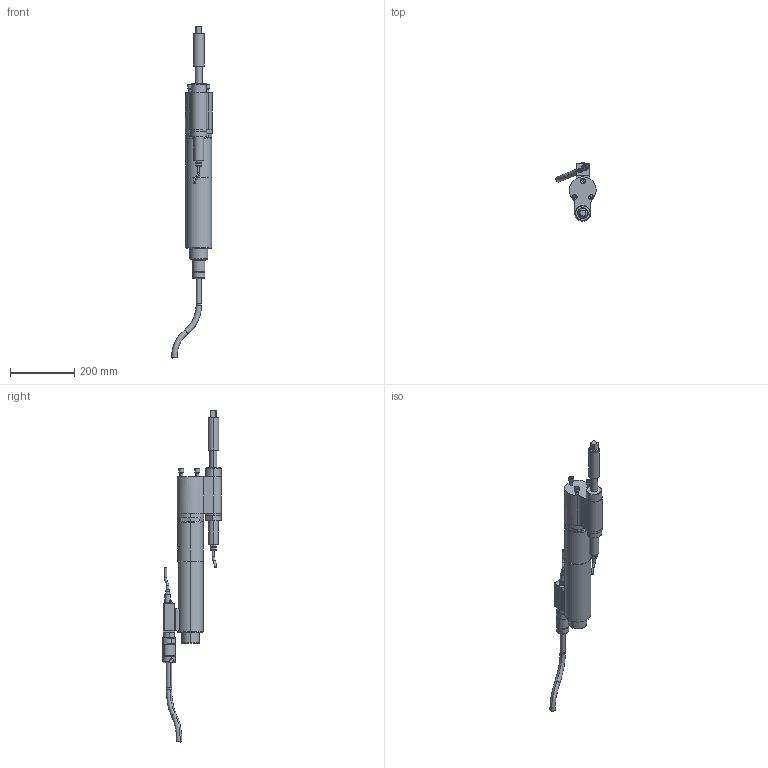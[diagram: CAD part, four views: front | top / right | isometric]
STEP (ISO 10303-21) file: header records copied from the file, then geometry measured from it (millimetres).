
FILE_DESCRIPTION(('CATIA V5 STEP'),'2;1');
FILE_NAME('O:\3D-Schrauber\stp\7920217_ECR326_AOD350-300_AllCATPart.stp','2010-05-05T10:57:31+00:00',('none'),('none'),'CATIA Version 5 Release 19 SP 3 (IN-10)','CATIA V5 STEP AP214','none');
FILE_SCHEMA(('AUTOMOTIVE_DESIGN { 1 0 10303 214 1 1 1 1 }'));
Length unit declared in the file: millimetre
Products named in the file (1): 7920217_ECR326_AOD350-300_AllCATPart
Bounding box: 125.32 x 182.98 x 1033.16 mm (x, y, z)
Volume: 3512613.4 mm3; surface area: 285566.9 mm2
Topology: 14 solids, 14 shells, 379 faces, 840 edges, 523 vertices
Faces by surface type: plane 154, cylinder 137, cone 50, torus 38
Entity records: 9884 total; most frequent: CARTESIAN_POINT 1950, ORIENTED_EDGE 1668, DIRECTION 1354, EDGE_CURVE 834, AXIS2_PLACEMENT_3D 693, VERTEX_POINT 523, EDGE_LOOP 419, CIRCLE 412
